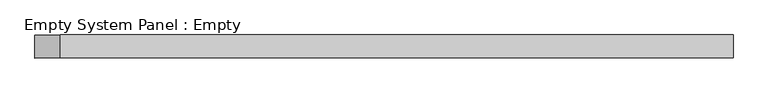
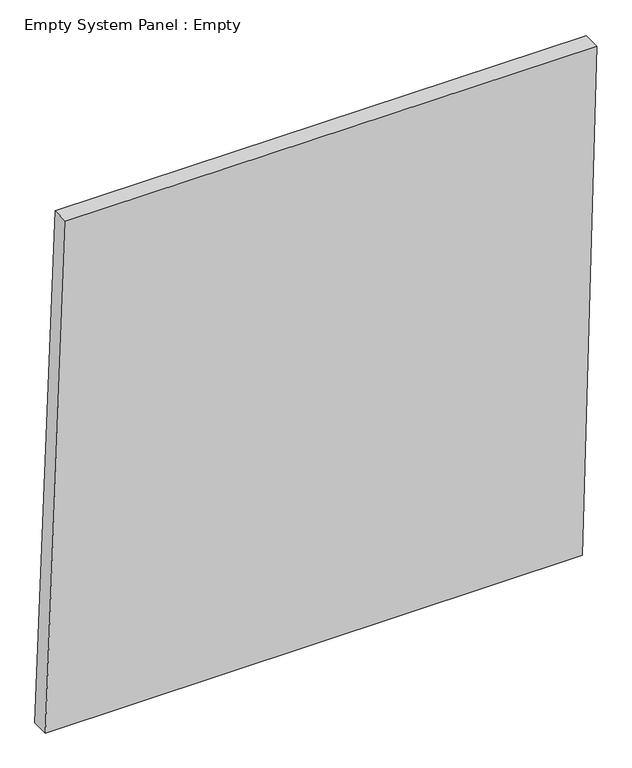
"""IFC4 building model written with IfcOpenShell, lengths in millimetres: plate geometry, Empty System Panel : Empty."""

from ifc_helpers import new_model, si_unit, frame, origin, place, context, project, spatial, polyline, outline, extrude, source, transform, mapped, element, save


def empty_system_panel_empty_7a88da63(model_context):
    return source(origin(), model_context, "Body", "SweptSolid", [
        extrude(outline(polyline([(0.0, -1542.1160971), (0.0, 1460.5353071), (2983.826556, 1542.1160971), (2988.6070332, -1429.6407223), (0.0, -1542.1160971)])), frame((0.0, -50.8, 0.0), z_axis=(0.0, 1.0, 0.0), x_axis=(0.0, 0.0, 1.0)), (0.0, 0.0, 1.0), 101.6),
    ])


if __name__ == "__main__":
    model = new_model("IFC4")
    model_context = context("Model", 3, world=origin())
    ifc_project = project(units=[si_unit("LENGTHUNIT", "METRE", prefix="MILLI")], contexts=[model_context])
    site = spatial("IfcSite", under=ifc_project)
    building = spatial("IfcBuilding", under=site)
    placement = place(None, origin())
    empty_system_panel_empty_shape = empty_system_panel_empty_7a88da63(model_context)
    element("IfcPlate", 1, ObjectType="Empty System Panel : Empty", at=placement, inside=building, context=model_context, shape_type="MappedRepresentation", body=[
        mapped(empty_system_panel_empty_shape, transform((0.0, 0.0, 0.0), x_axis=(1.0, 0.0, 0.0), y_axis=(0.0, 1.0, 0.0), z_axis=(0.0, 0.0, 1.0))),
    ])
    save(model, "model.ifc")
